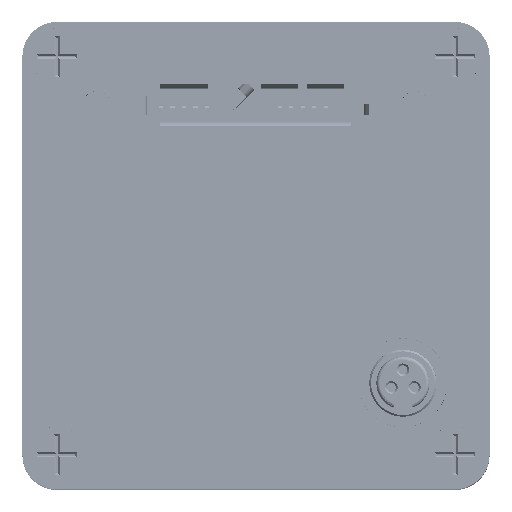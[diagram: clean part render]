
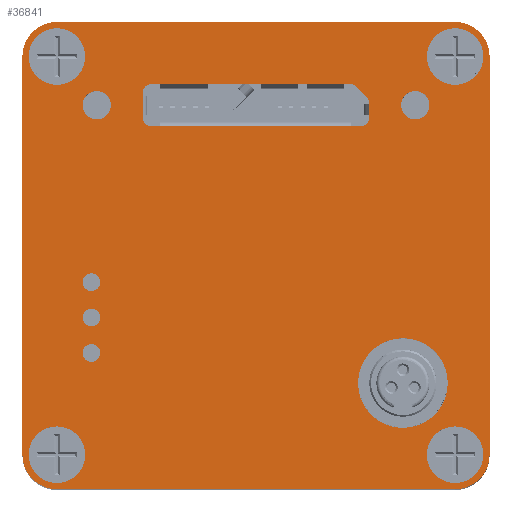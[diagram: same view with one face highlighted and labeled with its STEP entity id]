
A CAD part, top view. The second image highlights one B-rep face of the part: STEP entity #36841.
In plain terms, the highlighted planar face has unit normal (0, 0, 1).
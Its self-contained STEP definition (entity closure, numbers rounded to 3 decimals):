
#36841=ADVANCED_FACE('',(#75468,#75469,#75470,#75471,#75472,#75473,#75474,
#75475,#75476,#75477,#75478,#75479),#44571,.T.);
#44571=PLANE('',#153045);
#49603=LINE('',#197541,#62521);
#49607=LINE('',#197552,#62525);
#49608=LINE('',#197557,#62526);
#49609=LINE('',#197561,#62527);
#49610=LINE('',#197565,#62528);
#49611=LINE('',#197569,#62529);
#49612=LINE('',#197580,#62530);
#49613=LINE('',#197586,#62531);
#49614=LINE('',#197590,#62532);
#62521=VECTOR('',#163646,1.);
#62525=VECTOR('',#163654,1.);
#62526=VECTOR('',#163657,1.);
#62527=VECTOR('',#163660,1.);
#62528=VECTOR('',#163663,1.);
#62529=VECTOR('',#163666,1.);
#62530=VECTOR('',#163677,1.);
#62531=VECTOR('',#163682,1.);
#62532=VECTOR('',#163685,1.);
#75468=FACE_BOUND('',#77994,.T.);
#75469=FACE_BOUND('',#77995,.T.);
#75470=FACE_BOUND('',#77996,.T.);
#75471=FACE_BOUND('',#77997,.T.);
#75472=FACE_BOUND('',#77998,.T.);
#75473=FACE_BOUND('',#77999,.T.);
#75474=FACE_BOUND('',#78000,.T.);
#75475=FACE_BOUND('',#78001,.T.);
#75476=FACE_BOUND('',#78002,.T.);
#75477=FACE_BOUND('',#78003,.T.);
#75478=FACE_BOUND('',#78004,.T.);
#75479=FACE_BOUND('',#78005,.T.);
#77994=EDGE_LOOP('',(#87159,#87160,#87161,#87162,#87163,#87164,#87165,#87166,
#87167,#87168));
#77995=EDGE_LOOP('',(#87169));
#77996=EDGE_LOOP('',(#87170));
#77997=EDGE_LOOP('',(#87171));
#77998=EDGE_LOOP('',(#87172));
#77999=EDGE_LOOP('',(#87173,#87174,#87175,#87176,#87177,#87178,#87179,#87180));
#78000=EDGE_LOOP('',(#87181));
#78001=EDGE_LOOP('',(#87182));
#78002=EDGE_LOOP('',(#87183));
#78003=EDGE_LOOP('',(#87184));
#78004=EDGE_LOOP('',(#87185));
#78005=EDGE_LOOP('',(#87186));
#87159=ORIENTED_EDGE('',*,*,#132648,.T.);
#87160=ORIENTED_EDGE('',*,*,#132649,.T.);
#87161=ORIENTED_EDGE('',*,*,#132650,.T.);
#87162=ORIENTED_EDGE('',*,*,#132651,.T.);
#87163=ORIENTED_EDGE('',*,*,#132652,.T.);
#87164=ORIENTED_EDGE('',*,*,#132653,.T.);
#87165=ORIENTED_EDGE('',*,*,#132654,.T.);
#87166=ORIENTED_EDGE('',*,*,#132655,.T.);
#87167=ORIENTED_EDGE('',*,*,#132656,.T.);
#87168=ORIENTED_EDGE('',*,*,#132657,.T.);
#87169=ORIENTED_EDGE('',*,*,#132658,.F.);
#87170=ORIENTED_EDGE('',*,*,#132659,.F.);
#87171=ORIENTED_EDGE('',*,*,#132660,.T.);
#87172=ORIENTED_EDGE('',*,*,#132661,.F.);
#87173=ORIENTED_EDGE('',*,*,#132662,.T.);
#87174=ORIENTED_EDGE('',*,*,#132663,.T.);
#87175=ORIENTED_EDGE('',*,*,#132643,.T.);
#87176=ORIENTED_EDGE('',*,*,#132664,.T.);
#87177=ORIENTED_EDGE('',*,*,#132665,.T.);
#87178=ORIENTED_EDGE('',*,*,#132666,.T.);
#87179=ORIENTED_EDGE('',*,*,#132667,.T.);
#87180=ORIENTED_EDGE('',*,*,#132668,.T.);
#87181=ORIENTED_EDGE('',*,*,#132669,.F.);
#87182=ORIENTED_EDGE('',*,*,#132670,.T.);
#87183=ORIENTED_EDGE('',*,*,#132671,.F.);
#87184=ORIENTED_EDGE('',*,*,#132672,.F.);
#87185=ORIENTED_EDGE('',*,*,#132673,.F.);
#87186=ORIENTED_EDGE('',*,*,#132674,.T.);
#121358=VERTEX_POINT('',#197542);
#121359=VERTEX_POINT('',#197543);
#121363=VERTEX_POINT('',#197553);
#121364=VERTEX_POINT('',#197554);
#121365=VERTEX_POINT('',#197556);
#121366=VERTEX_POINT('',#197558);
#121367=VERTEX_POINT('',#197560);
#121368=VERTEX_POINT('',#197562);
#121369=VERTEX_POINT('',#197564);
#121370=VERTEX_POINT('',#197566);
#121371=VERTEX_POINT('',#197568);
#121372=VERTEX_POINT('',#197570);
#121373=VERTEX_POINT('',#197573);
#121374=VERTEX_POINT('',#197575);
#121375=VERTEX_POINT('',#197577);
#121376=VERTEX_POINT('',#197579);
#121377=VERTEX_POINT('',#197581);
#121378=VERTEX_POINT('',#197582);
#121379=VERTEX_POINT('',#197585);
#121380=VERTEX_POINT('',#197587);
#121381=VERTEX_POINT('',#197589);
#121382=VERTEX_POINT('',#197591);
#121383=VERTEX_POINT('',#197594);
#121384=VERTEX_POINT('',#197596);
#121385=VERTEX_POINT('',#197598);
#121386=VERTEX_POINT('',#197600);
#121387=VERTEX_POINT('',#197602);
#121388=VERTEX_POINT('',#197604);
#132643=EDGE_CURVE('',#121358,#121359,#49603,.T.);
#132648=EDGE_CURVE('',#121363,#121364,#49607,.T.);
#132649=EDGE_CURVE('',#121364,#121365,#149760,.T.);
#132650=EDGE_CURVE('',#121365,#121366,#49608,.T.);
#132651=EDGE_CURVE('',#121366,#121367,#149761,.T.);
#132652=EDGE_CURVE('',#121367,#121368,#49609,.T.);
#132653=EDGE_CURVE('',#121368,#121369,#149762,.T.);
#132654=EDGE_CURVE('',#121369,#121370,#49610,.T.);
#132655=EDGE_CURVE('',#121370,#121371,#149763,.T.);
#132656=EDGE_CURVE('',#121371,#121372,#49611,.T.);
#132657=EDGE_CURVE('',#121372,#121363,#149764,.T.);
#132658=EDGE_CURVE('',#121373,#121373,#149765,.T.);
#132659=EDGE_CURVE('',#121374,#121374,#149766,.T.);
#132660=EDGE_CURVE('',#121375,#121375,#149767,.T.);
#132661=EDGE_CURVE('',#121376,#121376,#149768,.T.);
#132662=EDGE_CURVE('',#121377,#121378,#49612,.T.);
#132663=EDGE_CURVE('',#121378,#121358,#149769,.T.);
#132664=EDGE_CURVE('',#121359,#121379,#149770,.T.);
#132665=EDGE_CURVE('',#121379,#121380,#49613,.T.);
#132666=EDGE_CURVE('',#121380,#121381,#149771,.T.);
#132667=EDGE_CURVE('',#121381,#121382,#49614,.T.);
#132668=EDGE_CURVE('',#121382,#121377,#149772,.T.);
#132669=EDGE_CURVE('',#121383,#121383,#149773,.T.);
#132670=EDGE_CURVE('',#121384,#121384,#149774,.T.);
#132671=EDGE_CURVE('',#121385,#121385,#149775,.T.);
#132672=EDGE_CURVE('',#121386,#121386,#149776,.T.);
#132673=EDGE_CURVE('',#121387,#121387,#149777,.T.);
#132674=EDGE_CURVE('',#121388,#121388,#149778,.T.);
#149760=CIRCLE('',#153026,0.5);
#149761=CIRCLE('',#153027,0.5);
#149762=CIRCLE('',#153028,0.5);
#149763=CIRCLE('',#153029,0.5);
#149764=CIRCLE('',#153030,0.5);
#149765=CIRCLE('',#153031,0.8);
#149766=CIRCLE('',#153032,0.8);
#149767=CIRCLE('',#153033,1.6);
#149768=CIRCLE('',#153034,1.6);
#149769=CIRCLE('',#153035,1.95);
#149770=CIRCLE('',#153036,1.95);
#149771=CIRCLE('',#153037,1.95);
#149772=CIRCLE('',#153038,1.95);
#149773=CIRCLE('',#153039,1.6);
#149774=CIRCLE('',#153040,1.6);
#149775=CIRCLE('',#153041,0.5);
#149776=CIRCLE('',#153042,0.5);
#149777=CIRCLE('',#153043,0.5);
#149778=CIRCLE('',#153044,2.535);
#153026=AXIS2_PLACEMENT_3D('',#197555,#163655,#163656);
#153027=AXIS2_PLACEMENT_3D('',#197559,#163658,#163659);
#153028=AXIS2_PLACEMENT_3D('',#197563,#163661,#163662);
#153029=AXIS2_PLACEMENT_3D('',#197567,#163664,#163665);
#153030=AXIS2_PLACEMENT_3D('',#197571,#163667,#163668);
#153031=AXIS2_PLACEMENT_3D('',#197572,#163669,#163670);
#153032=AXIS2_PLACEMENT_3D('',#197574,#163671,#163672);
#153033=AXIS2_PLACEMENT_3D('',#197576,#163673,#163674);
#153034=AXIS2_PLACEMENT_3D('',#197578,#163675,#163676);
#153035=AXIS2_PLACEMENT_3D('',#197583,#163678,#163679);
#153036=AXIS2_PLACEMENT_3D('',#197584,#163680,#163681);
#153037=AXIS2_PLACEMENT_3D('',#197588,#163683,#163684);
#153038=AXIS2_PLACEMENT_3D('',#197592,#163686,#163687);
#153039=AXIS2_PLACEMENT_3D('',#197593,#163688,#163689);
#153040=AXIS2_PLACEMENT_3D('',#197595,#163690,#163691);
#153041=AXIS2_PLACEMENT_3D('',#197597,#163692,#163693);
#153042=AXIS2_PLACEMENT_3D('',#197599,#163694,#163695);
#153043=AXIS2_PLACEMENT_3D('',#197601,#163696,#163697);
#153044=AXIS2_PLACEMENT_3D('',#197603,#163698,#163699);
#153045=AXIS2_PLACEMENT_3D('',#197605,#163700,#163701);
#163646=DIRECTION('',(1.,0.,0.));
#163654=DIRECTION('',(1.,0.,0.));
#163655=DIRECTION('',(0.,0.,-1.));
#163656=DIRECTION('',(1.,0.,0.));
#163657=DIRECTION('',(0.707,-0.707,0.));
#163658=DIRECTION('',(0.,0.,-1.));
#163659=DIRECTION('',(1.,0.,0.));
#163660=DIRECTION('',(0.,-1.,0.));
#163661=DIRECTION('',(0.,0.,-1.));
#163662=DIRECTION('',(1.,0.,0.));
#163663=DIRECTION('',(-1.,0.,0.));
#163664=DIRECTION('',(0.,0.,-1.));
#163665=DIRECTION('',(1.,0.,0.));
#163666=DIRECTION('',(0.,1.,0.));
#163667=DIRECTION('',(0.,0.,-1.));
#163668=DIRECTION('',(1.,0.,0.));
#163669=DIRECTION('',(0.,0.,1.));
#163670=DIRECTION('',(-1.,0.,0.));
#163671=DIRECTION('',(0.,0.,1.));
#163672=DIRECTION('',(-1.,0.,0.));
#163673=DIRECTION('',(0.,0.,-1.));
#163674=DIRECTION('',(1.,0.,0.));
#163675=DIRECTION('',(0.,0.,1.));
#163676=DIRECTION('',(-1.,0.,0.));
#163677=DIRECTION('',(0.,-1.,0.));
#163678=DIRECTION('',(0.,0.,1.));
#163679=DIRECTION('',(1.,0.,0.));
#163680=DIRECTION('',(0.,0.,1.));
#163681=DIRECTION('',(1.,0.,0.));
#163682=DIRECTION('',(0.,1.,0.));
#163683=DIRECTION('',(0.,0.,1.));
#163684=DIRECTION('',(1.,0.,0.));
#163685=DIRECTION('',(-1.,0.,0.));
#163686=DIRECTION('',(0.,0.,1.));
#163687=DIRECTION('',(1.,0.,0.));
#163688=DIRECTION('',(0.,0.,1.));
#163689=DIRECTION('',(1.,0.,0.));
#163690=DIRECTION('',(0.,0.,-1.));
#163691=DIRECTION('',(-1.,0.,0.));
#163692=DIRECTION('',(0.,0.,1.));
#163693=DIRECTION('',(-1.,0.,0.));
#163694=DIRECTION('',(0.,0.,1.));
#163695=DIRECTION('',(-1.,0.,0.));
#163696=DIRECTION('',(0.,0.,1.));
#163697=DIRECTION('',(-1.,0.,0.));
#163698=DIRECTION('',(0.,0.,-1.));
#163699=DIRECTION('',(-1.,0.,0.));
#163700=DIRECTION('',(0.,0.,1.));
#163701=DIRECTION('',(1.,0.,0.));
#197541=CARTESIAN_POINT('',(-13.2,-13.2,6.5));
#197542=CARTESIAN_POINT('',(-11.25,-13.2,6.5));
#197543=CARTESIAN_POINT('',(11.25,-13.2,6.5));
#197552=CARTESIAN_POINT('',(-6.4,9.7,6.5));
#197553=CARTESIAN_POINT('',(-5.9,9.7,6.5));
#197554=CARTESIAN_POINT('',(5.293,9.7,6.5));
#197555=CARTESIAN_POINT('',(5.293,9.2,6.5));
#197556=CARTESIAN_POINT('',(5.646,9.554,6.5));
#197557=CARTESIAN_POINT('',(6.4,8.8,6.5));
#197558=CARTESIAN_POINT('',(6.254,8.946,6.5));
#197559=CARTESIAN_POINT('',(5.9,8.593,6.5));
#197560=CARTESIAN_POINT('',(6.4,8.593,6.5));
#197561=CARTESIAN_POINT('',(6.4,9.7,6.5));
#197562=CARTESIAN_POINT('',(6.4,7.8,6.5));
#197563=CARTESIAN_POINT('',(5.9,7.8,6.5));
#197564=CARTESIAN_POINT('',(5.9,7.3,6.5));
#197565=CARTESIAN_POINT('',(6.4,7.3,6.5));
#197566=CARTESIAN_POINT('',(-5.9,7.3,6.5));
#197567=CARTESIAN_POINT('',(-5.9,7.8,6.5));
#197568=CARTESIAN_POINT('',(-6.4,7.8,6.5));
#197569=CARTESIAN_POINT('',(-6.4,7.3,6.5));
#197570=CARTESIAN_POINT('',(-6.4,9.2,6.5));
#197571=CARTESIAN_POINT('',(-5.9,9.2,6.5));
#197572=CARTESIAN_POINT('',(9.,8.5,6.5));
#197573=CARTESIAN_POINT('',(8.2,8.5,6.5));
#197574=CARTESIAN_POINT('',(-9.,8.5,6.5));
#197575=CARTESIAN_POINT('',(-9.8,8.5,6.5));
#197576=CARTESIAN_POINT('',(-11.25,11.25,6.5));
#197577=CARTESIAN_POINT('',(-9.65,11.25,6.5));
#197578=CARTESIAN_POINT('',(11.25,11.25,6.5));
#197579=CARTESIAN_POINT('',(9.65,11.25,6.5));
#197580=CARTESIAN_POINT('',(-13.2,13.2,6.5));
#197581=CARTESIAN_POINT('',(-13.2,11.25,6.5));
#197582=CARTESIAN_POINT('',(-13.2,-11.25,6.5));
#197583=CARTESIAN_POINT('',(-11.25,-11.25,6.5));
#197584=CARTESIAN_POINT('',(11.25,-11.25,6.5));
#197585=CARTESIAN_POINT('',(13.2,-11.25,6.5));
#197586=CARTESIAN_POINT('',(13.2,-13.2,6.5));
#197587=CARTESIAN_POINT('',(13.2,11.25,6.5));
#197588=CARTESIAN_POINT('',(11.25,11.25,6.5));
#197589=CARTESIAN_POINT('',(11.25,13.2,6.5));
#197590=CARTESIAN_POINT('',(13.2,13.2,6.5));
#197591=CARTESIAN_POINT('',(-11.25,13.2,6.5));
#197592=CARTESIAN_POINT('',(-11.25,11.25,6.5));
#197593=CARTESIAN_POINT('',(-11.25,-11.25,6.5));
#197594=CARTESIAN_POINT('',(-9.65,-11.25,6.5));
#197595=CARTESIAN_POINT('',(11.25,-11.25,6.5));
#197596=CARTESIAN_POINT('',(9.65,-11.25,6.5));
#197597=CARTESIAN_POINT('',(-9.3,-1.5,6.5));
#197598=CARTESIAN_POINT('',(-9.8,-1.5,6.5));
#197599=CARTESIAN_POINT('',(-9.3,-3.5,6.5));
#197600=CARTESIAN_POINT('',(-9.8,-3.5,6.5));
#197601=CARTESIAN_POINT('',(-9.3,-5.5,6.5));
#197602=CARTESIAN_POINT('',(-9.8,-5.5,6.5));
#197603=CARTESIAN_POINT('',(8.3,-7.2,6.5));
#197604=CARTESIAN_POINT('',(5.765,-7.2,6.5));
#197605=CARTESIAN_POINT('',(-13.2,-13.2,6.5));
